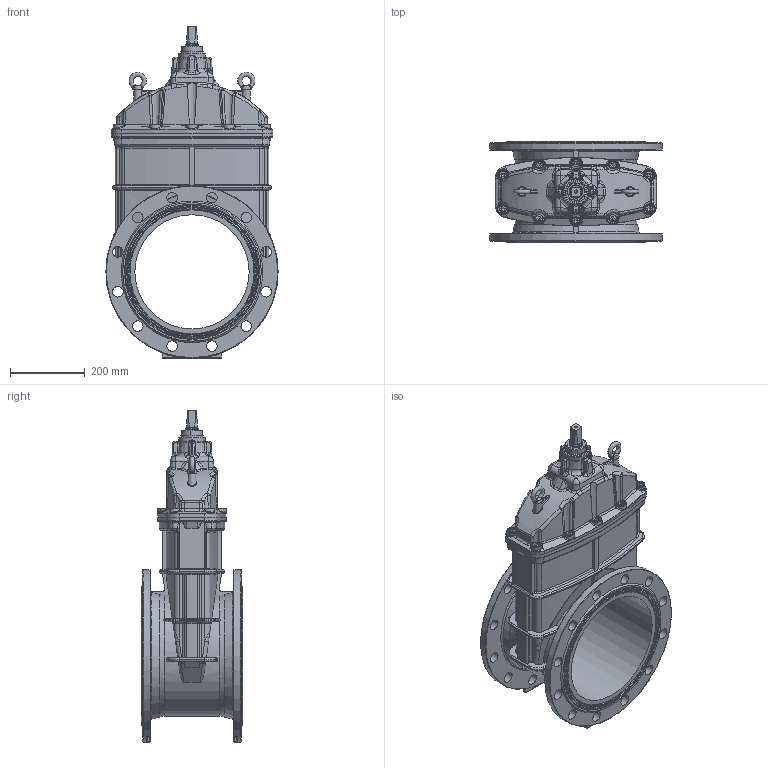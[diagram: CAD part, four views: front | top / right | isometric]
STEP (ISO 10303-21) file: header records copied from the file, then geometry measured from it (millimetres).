
FILE_DESCRIPTION(/* description */ (''),/* implementation_level */ '2;1');
FILE_NAME(/* name */ 'F4-DN300PN16.stp',/* time_stamp */ '2024-08-01T08:22:10+07:00',/* author */ ('Eva'),/* organization */ (''),/* preprocessor_version */ 'ST-DEVELOPER v20',/* originating_system */ 'Autodesk Inventor 2025',/* authorisation */ '');
FILE_SCHEMA (('AUTOMOTIVE_DESIGN { 1 0 10303 214 3 1 1 }'));
Length unit declared in the file: metre
Products named in the file (8): F4-DN300PN16; ·§Ме DN300PN16(YZ45X12302-01-00 
); ·§ёЛ DN300PN16(YZ45X12302-04-00 
); ·§ёЗ DN300PN16(YZ45X12302-02-00 
QT450-10); Ц№НЖВЭДё DN300PN16(YZ4
5X12302-09-00 ); ·АіѕГЬ·вИ¦ DN30
0PN16(YZ45X12302-10-00 ); M12 ДЪБщЅЗФІЦщН·ВЭ¶¤ 
GB T 70.1-2000(M12ЎБ30); µх»·ВЭ¶¤ GBT 825-1988
(M10)
Assembly tree (17 placements, depth 2):
  F4-DN300PN16
    ·§Ме DN300PN16(YZ45X12302-01-00 
)
    ·§ёЛ DN300PN16(YZ45X12302-04-00 
)
    ·§ёЗ DN300PN16(YZ45X12302-02-00 
QT450-10)
    Ц№НЖВЭДё DN300PN16(YZ4
5X12302-09-00 )
    ·АіѕГЬ·вИ¦ DN30
0PN16(YZ45X12302-10-00 )
    M12 ДЪБщЅЗФІЦщН·ВЭ¶¤ 
GB T 70.1-2000(M12ЎБ30)  x10
    µх»·ВЭ¶¤ GBT 825-1988
(M10)  x2
Bounding box: 460 x 270 x 886.3 mm (x, y, z)
Volume: 11622599.3 mm3; surface area: 2005420.2 mm2
Topology: 17 solids, 17 shells, 1856 faces, 4569 edges, 2690 vertices
Faces by surface type: bspline 561, cylinder 451, plane 420, torus 214, cone 158, sphere 52
Full cylindrical faces by diameter (mm): 7.7 x2, 8.5 x3, 10 x2, 10.2 x10, 12 x10, 13.964 x2, 14 x10, 18.27 x10, 28.5 x24, 34 x1, 35 x1, 40 x1, 49 x1, 53.5 x1, 56 x1, 60 x1, 70 x1, 305 x1, 460 x2
Entity records: 98827 total; most frequent: CARTESIAN_POINT 61862, ORIENTED_EDGE 8202, DIRECTION 7219, EDGE_CURVE 4101, AXIS2_PLACEMENT_3D 3122, VERTEX_POINT 2445, EDGE_LOOP 1798, CIRCLE 1775
